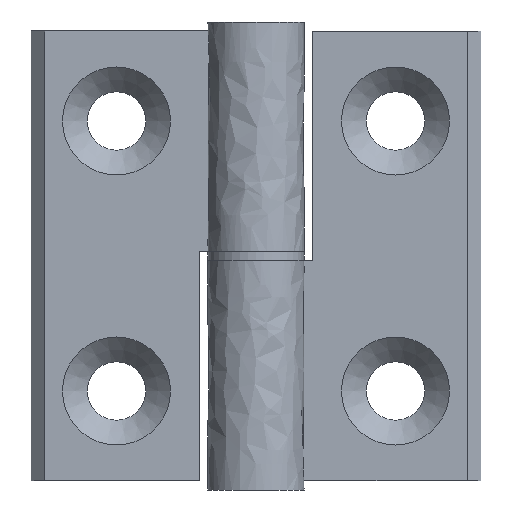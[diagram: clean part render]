
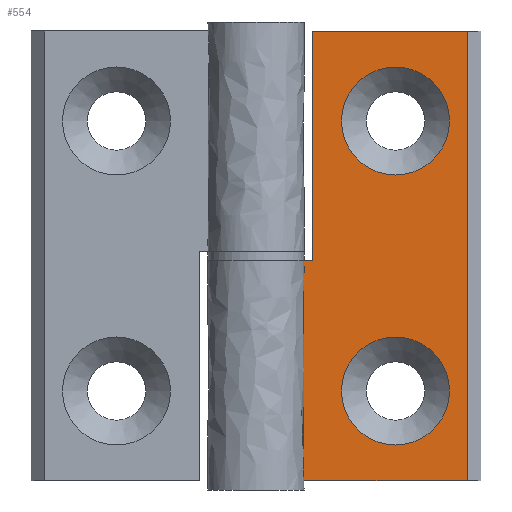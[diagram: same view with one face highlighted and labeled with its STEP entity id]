
A CAD part, front view. The second image highlights one B-rep face of the part: STEP entity #554.
In plain terms, the highlighted free-form (B-spline) face has degree [1, 1] with [2, 2] control points.
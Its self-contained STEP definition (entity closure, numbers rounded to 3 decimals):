
#183=CARTESIAN_POINT('',(6.791,-0.051,-10.0));
#184=VERTEX_POINT('',#183);
#185=CARTESIAN_POINT('',(0.791,-0.051,-10.0));
#186=DIRECTION('',(0.0,-1.0,0.0));
#187=DIRECTION('',(1.0,0.0,0.0));
#188=AXIS2_PLACEMENT_3D('',#185,#186,#187);
#189=CIRCLE('',#188,6.);
#190=EDGE_CURVE('',#184,#184,#189,.T.);
#231=CARTESIAN_POINT('',(6.791,-0.051,-40.0));
#232=VERTEX_POINT('',#231);
#233=CARTESIAN_POINT('',(0.791,-0.051,-40.0));
#234=DIRECTION('',(0.0,-1.0,0.0));
#235=DIRECTION('',(1.0,0.0,0.0));
#236=AXIS2_PLACEMENT_3D('',#233,#234,#235);
#237=CIRCLE('',#236,6.);
#238=EDGE_CURVE('',#232,#232,#237,.T.);
#281=CARTESIAN_POINT('',(-9.532,-0.051,-25.5));
#282=VERTEX_POINT('',#281);
#290=CARTESIAN_POINT('',(-8.459,-0.051,-25.5));
#291=VERTEX_POINT('',#290);
#292=CARTESIAN_POINT('',(-9.532,-0.051,-25.5));
#293=DIRECTION('',(1.0,0.0,0.0));
#294=VECTOR('',#293,1.073);
#295=LINE('',#292,#294);
#296=EDGE_CURVE('',#282,#291,#295,.T.);
#331=CARTESIAN_POINT('',(-8.459,-0.051,0.0));
#332=VERTEX_POINT('',#331);
#333=CARTESIAN_POINT('',(-8.459,-0.051,-25.5));
#334=DIRECTION('',(0.0,0.0,1.0));
#335=VECTOR('',#334,25.5);
#336=LINE('',#333,#335);
#337=EDGE_CURVE('',#291,#332,#336,.T.);
#434=CARTESIAN_POINT('',(-9.532,-0.051,-50.0));
#435=VERTEX_POINT('',#434);
#443=CARTESIAN_POINT('',(-9.532,-0.051,-25.5));
#444=DIRECTION('',(0.0,0.0,-1.0));
#445=VECTOR('',#444,24.5);
#446=LINE('',#443,#445);
#447=EDGE_CURVE('',#282,#435,#446,.T.);
#492=CARTESIAN_POINT('',(8.791,-0.051,-50.0));
#493=VERTEX_POINT('',#492);
#508=CARTESIAN_POINT('',(8.791,-0.051,0.0));
#509=VERTEX_POINT('',#508);
#516=CARTESIAN_POINT('',(8.791,-0.051,0.0));
#517=DIRECTION('',(0.0,0.0,-1.0));
#518=VECTOR('',#517,50.0);
#519=LINE('',#516,#518);
#520=EDGE_CURVE('',#509,#493,#519,.T.);
#525=CARTESIAN_POINT('',(8.791,-0.051,-50.0));
#526=CARTESIAN_POINT('',(8.791,-0.051,0.0));
#527=CARTESIAN_POINT('',(-9.532,-0.051,-50.0));
#528=CARTESIAN_POINT('',(-9.532,-0.051,0.0));
#529=B_SPLINE_SURFACE_WITH_KNOTS('',1,1,((#525,#527),(#526,#528)),.UNSPECIFIED.,.F.,.F.,.U.,(2,2),(2,2),(0.0,50.0),(0.0,18.323),.UNSPECIFIED.);
#530=ORIENTED_EDGE('',*,*,#337,.F.);
#531=ORIENTED_EDGE('',*,*,#296,.F.);
#532=ORIENTED_EDGE('',*,*,#447,.T.);
#533=CARTESIAN_POINT('',(8.791,-0.051,-50.0));
#534=DIRECTION('',(-1.0,0.0,0.0));
#535=VECTOR('',#534,18.323);
#536=LINE('',#533,#535);
#537=EDGE_CURVE('',#493,#435,#536,.T.);
#538=ORIENTED_EDGE('',*,*,#537,.F.);
#539=ORIENTED_EDGE('',*,*,#520,.F.);
#540=CARTESIAN_POINT('',(8.791,-0.051,0.0));
#541=DIRECTION('',(-1.0,0.0,0.0));
#542=VECTOR('',#541,17.25);
#543=LINE('',#540,#542);
#544=EDGE_CURVE('',#509,#332,#543,.T.);
#545=ORIENTED_EDGE('',*,*,#544,.T.);
#546=EDGE_LOOP('',(#530,#531,#532,#538,#539,#545));
#547=FACE_OUTER_BOUND('',#546,.T.);
#548=ORIENTED_EDGE('',*,*,#190,.F.);
#549=EDGE_LOOP('',(#548));
#550=FACE_BOUND('',#549,.T.);
#551=ORIENTED_EDGE('',*,*,#238,.F.);
#552=EDGE_LOOP('',(#551));
#553=FACE_BOUND('',#552,.T.);
#554=ADVANCED_FACE('',(#547,#550,#553),#529,.T.);
